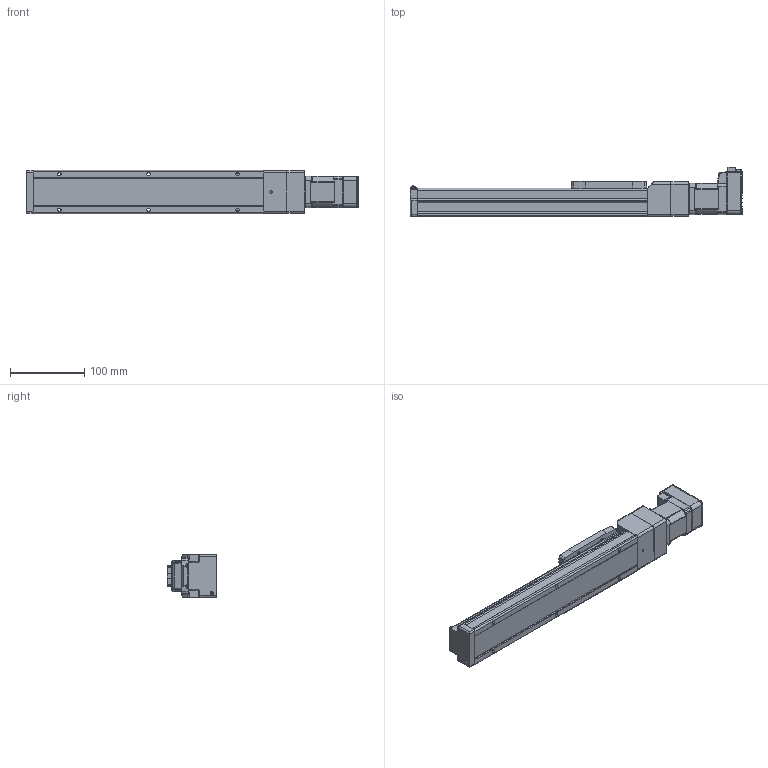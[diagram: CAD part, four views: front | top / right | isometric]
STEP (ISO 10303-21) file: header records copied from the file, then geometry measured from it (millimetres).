
FILE_DESCRIPTION (( 'STEP AP214' ), '1' );
FILE_NAME ('LEFS3(+)-25NM1Œû-200-17L.STEP', '2023-05-31T02:44:36', ( '' ), ( '' ), 'SwSTEP 2.0', 'SolidWorks 2019', '' );
FILE_SCHEMA (( 'AUTOMOTIVE_DESIGN' ));
Length unit declared in the file: millimetre
Products named in the file (5): LEFS3(+)-25NM1_TABLE; LEFS3(+)-25NM1口-200-17L; CM3(+)-17L50A; LEFS3(+)-25NM1仩_BODY_200; LEFS3(+)-25NM1_MOTOR Flange
Assembly tree (4 placements, depth 2):
  LEFS3(+)-25NM1口-200-17L
    LEFS3(+)-25NM1仩_BODY_200
    LEFS3(+)-25NM1_TABLE
    LEFS3(+)-25NM1_MOTOR Flange
    CM3(+)-17L50A
Bounding box: 447.3 x 66.75 x 58 mm (x, y, z)
Volume: 918113.2 mm3; surface area: 128691.9 mm2
Topology: 5 solids, 5 shells, 991 faces, 2554 edges, 1608 vertices
Faces by surface type: plane 513, cylinder 306, cone 83, torus 39, bspline 29, sphere 21
Entity records: 40232 total; most frequent: CARTESIAN_POINT 7344, ORIENTED_EDGE 5046, DIRECTION 4854, EDGE_CURVE 2523, AXIS2_PLACEMENT_3D 1630, VERTEX_POINT 1608, LINE 1594, VECTOR 1594
